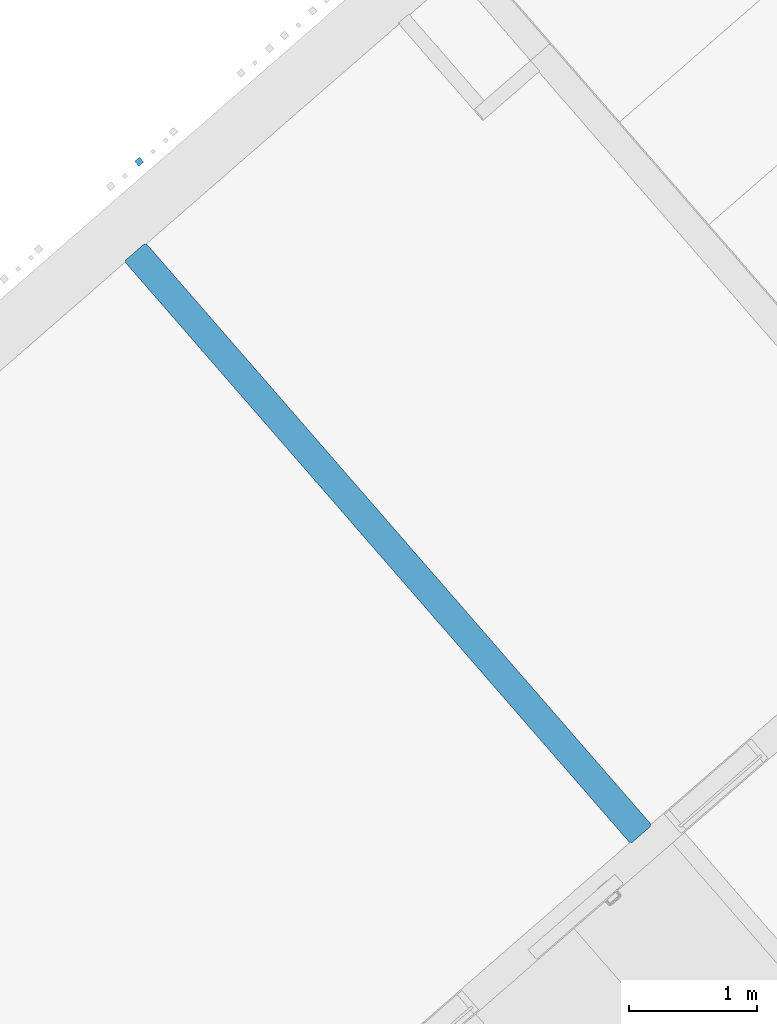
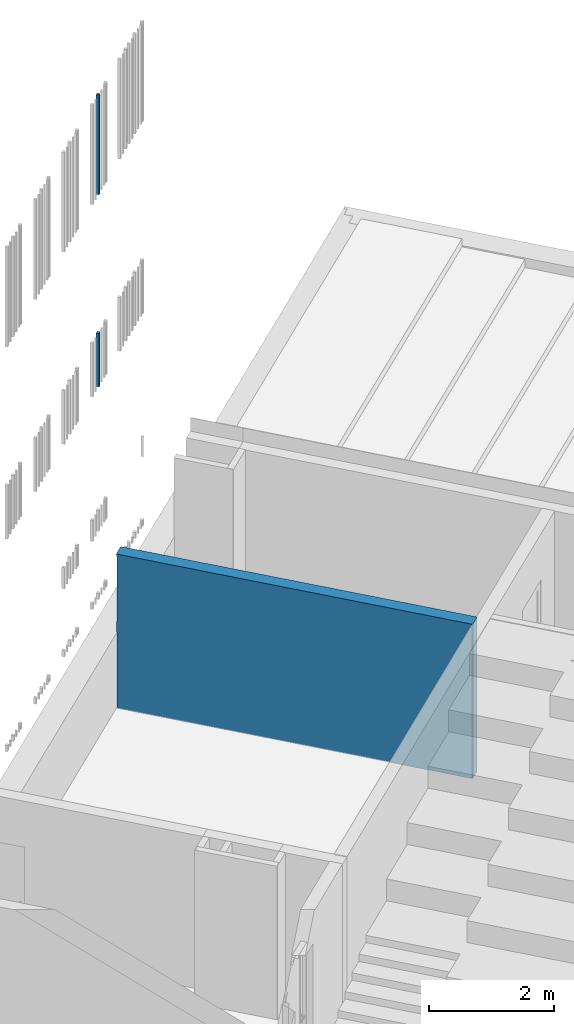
# One storey, part 79 of 124: 3 walls.
"""IFC2X3 building model written with IfcOpenShell, lengths in millimetres."""

import ifcopenshell
import ifcopenshell.guid

model = None  # the IFC model being written
_history = None  # IfcOwnerHistory: only IFC2X3 demands one
_inside = {}  # id of a spatial element -> (the spatial element, [elements in it])
_under = {}  # id of a project, library or spatial element -> (it, [spatial elements below it])
_declared = {}  # id of a project -> (the project, [libraries it declares])
_typed = {}  # id of a type object -> (the type object, [elements of that type])
_made_of = {}  # id of a material, layer set ... -> (it, [elements and type objects made of it])


def new_model(schema):
    """Start an empty IFC model of exactly this schema.

    Asked for "IFC4X3", IfcOpenShell would pick the latest addendum, in which some entities
    have other attributes; the version numbers below select the first issue.
    IFC2X3 requires an IfcOwnerHistory on every rooted entity: one is made here for all.
    """
    global model, _history
    if schema == "IFC4X3":
        model = ifcopenshell.file(schema_version=(4, 3, 0, 0))
    else:
        model = ifcopenshell.file(schema=schema)
    _inside.clear()
    _under.clear()
    _declared.clear()
    _typed.clear()
    _made_of.clear()
    _history = None
    if model.schema == "IFC2X3":
        org = make("IfcOrganization", Name="unknown")
        user = make(
            "IfcPersonAndOrganization",
            ThePerson=make("IfcPerson", FamilyName="unknown"),
            TheOrganization=org,
        )
        app = make(
            "IfcApplication",
            ApplicationDeveloper=org,
            Version="unknown",
            ApplicationFullName="unknown",
            ApplicationIdentifier="unknown",
        )
        _history = make(
            "IfcOwnerHistory",
            OwningUser=user,
            OwningApplication=app,
            ChangeAction="ADDED",
            CreationDate=0,
        )
    return model


def make(cls, **values):
    """One entity of the class cls with the attributes given. An attribute that is None is left unset."""
    return model.create_entity(
        cls, **{name: value for name, value in values.items() if value is not None}
    )


def entity(cls, *values):
    """Any entity or typed value of the class cls, its attributes in the order of the schema. None: left unset."""
    e = model.create_entity(cls)
    for i, value in enumerate(values):
        if value is not None:
            e[i] = value
    return e


def rooted(cls, **values):
    """An entity with a GlobalId (a new one), such as an element, a storey or a relation."""
    return make(cls, GlobalId=ifcopenshell.guid.new(), OwnerHistory=_history, **values)


def si_unit(unit_type, name, prefix=None):
    """IfcSIUnit, for example si_unit("LENGTHUNIT", "METRE", prefix="MILLI")."""
    return make("IfcSIUnit", UnitType=unit_type, Prefix=prefix, Name=name)


def converted_unit(unit_type, name, factor, base, dimensions=None, offset=None):
    """IfcConversionBasedUnit, such as the inch: factor (a typed value) times the base unit."""
    return make(
        "IfcConversionBasedUnit"
        if offset is None
        else "IfcConversionBasedUnitWithOffset",
        ConversionOffset=offset,
        Dimensions=None
        if dimensions is None
        else entity("IfcDimensionalExponents", *dimensions),
        UnitType=unit_type,
        Name=name,
        ConversionFactor=make(
            "IfcMeasureWithUnit", ValueComponent=factor, UnitComponent=base
        ),
    )


def derived_unit(unit_type, elements):
    """IfcDerivedUnit: a product of units, each with its exponent."""
    return make(
        "IfcDerivedUnit",
        Elements=[
            make("IfcDerivedUnitElement", Unit=unit, Exponent=power)
            for unit, power in elements
        ],
        UnitType=unit_type,
    )


def money_unit(currency):
    """IfcMonetaryUnit."""
    return make("IfcMonetaryUnit", Currency=currency)


def assignment(units):
    """IfcUnitAssignment: the units of a project."""
    return None if units is None else make("IfcUnitAssignment", Units=units)


def point(xyz):
    """IfcCartesianPoint."""
    return None if xyz is None else make("IfcCartesianPoint", Coordinates=xyz)


def direction(xyz):
    """IfcDirection."""
    return None if xyz is None else make("IfcDirection", DirectionRatios=xyz)


def frame(location, z_axis=None, x_axis=None):
    """IfcAxis2Placement3D, a coordinate frame: its origin and axes. An axis left out is left unset."""
    return make(
        "IfcAxis2Placement3D",
        Location=point(location),
        Axis=direction(z_axis),
        RefDirection=direction(x_axis),
    )


def origin_with_axes():
    """The frame at (0, 0, 0) with the z axis (0, 0, 1) and the x axis (1, 0, 0) written out."""
    return frame((0.0, 0.0, 0.0), z_axis=(0.0, 0.0, 1.0), x_axis=(1.0, 0.0, 0.0))


def place(relative_to, where):
    """IfcLocalPlacement: puts the frame where relative to a parent placement (None: the world)."""
    return make(
        "IfcLocalPlacement", PlacementRelTo=relative_to, RelativePlacement=where
    )


def context(
    kind, dimensions, precision=None, world=None, true_north=None, identifier=None
):
    """IfcGeometricRepresentationContext, for example the 3D "Model" context."""
    return make(
        "IfcGeometricRepresentationContext",
        ContextIdentifier=identifier,
        ContextType=kind,
        CoordinateSpaceDimension=dimensions,
        Precision=precision,
        WorldCoordinateSystem=world,
        TrueNorth=true_north,
    )


def subcontext(parent, identifier, kind, view, scale=None):
    """IfcGeometricRepresentationSubContext, for example "Body" below "Model"."""
    return make(
        "IfcGeometricRepresentationSubContext",
        ContextIdentifier=identifier,
        ContextType=kind,
        ParentContext=parent,
        TargetScale=scale,
        TargetView=view,
    )


def project(units=None, contexts=None):
    """IfcProject with its units and contexts."""
    return rooted(
        "IfcProject",
        Name="project",
        RepresentationContexts=contexts,
        UnitsInContext=assignment(units),
    )


def spatial(cls, under=None, at=None, **own):
    """A site, building, storey or space (cls), placed at a placement, below another one or the project."""
    s = rooted(cls, ObjectPlacement=at, **own)
    if under is not None:
        _under.setdefault(under.id(), (under, []))[1].append(s)
    return s


def faces_of(points, faces, orient=None, outer=None):
    """IfcFace entities. A face is a list of loops; a loop is a list of indices into points, from 0.

    orient and outer hold one flag for each loop. By default every Orientation is true, the
    first loop of a face is its IfcFaceOuterBound and the others are IfcFaceBound.
    """
    made = []
    for i, loops in enumerate(faces):
        bounds = []
        for j, loop in enumerate(loops):
            is_outer = j == 0 if outer is None else outer[i][j]
            bounds.append(
                make(
                    "IfcFaceOuterBound" if is_outer else "IfcFaceBound",
                    Bound=make("IfcPolyLoop", Polygon=[points[k] for k in loop]),
                    Orientation=True if orient is None else orient[i][j],
                )
            )
        made.append(make("IfcFace", Bounds=bounds))
    return made


def faceted_brep(points, faces, orient=None, outer=None, voids=None):
    """IfcFacetedBrep: a solid bounded by flat faces; with voids (closed shells), ...WithVoids."""
    shared = [point(p) for p in points]
    hull = make("IfcClosedShell", CfsFaces=faces_of(shared, faces, orient, outer))
    if voids is None:
        return make("IfcFacetedBrep", Outer=hull)
    return make(
        "IfcFacetedBrepWithVoids",
        Outer=hull,
        Voids=[
            make(cls, CfsFaces=faces_of(shared, fs, o, b)) for cls, fs, o, b in voids
        ],
    )


def shape(context_of_items, identifier, shape_type, items):
    """IfcShapeRepresentation: the items that make up one representation, for example the "Body"."""
    return make(
        "IfcShapeRepresentation",
        ContextOfItems=context_of_items,
        RepresentationIdentifier=identifier,
        RepresentationType=shape_type,
        Items=items,
    )


def material(Name=None, Category=None):
    """IfcMaterial."""
    return make("IfcMaterial", Name=Name, Category=Category)


def material_list(materials):
    """IfcMaterialList."""
    return make("IfcMaterialList", Materials=materials)


def made_of(thing, what):
    """Note that an element or type object is made of a material, layer set ...; save() writes the relation."""
    if what is not None:
        _made_of.setdefault(what.id(), (what, []))[1].append(thing)
    return thing


def type_object(cls, material=None, **own):
    """A type object (cls), such as IfcWallType, which elements share."""
    return made_of(rooted(cls, **own), material)


def element(
    cls,
    number,
    at=None,
    inside=None,
    cuts=None,
    type_object=None,
    material=None,
    context=None,
    identifier="Body",
    shape_type=None,
    held_by="IfcProductDefinitionShape",
    body=None,
    shapes=None,
    **own,
):
    """One element of the class cls, such as IfcWall. Its Tag is "e" and its number.

    at: its placement. inside: the storey or other place that contains it. cuts: it is an
    opening in that element (IfcRelVoidsElement). A single representation is given by context,
    identifier, shape_type and body (its items); several are given by shapes. held_by: the class
    of the entity that holds the representations. save() writes the other relations.
    """
    e = rooted(cls, Tag="e%d" % number, ObjectPlacement=at, **own)
    if body is not None:
        shapes = [shape(context, identifier, shape_type, body)]
    if shapes is not None:
        e.Representation = make(held_by, Representations=shapes)
    if inside is not None:
        _inside.setdefault(inside.id(), (inside, []))[1].append(e)
    if cuts is not None:
        rooted(
            "IfcRelVoidsElement", RelatingBuildingElement=cuts, RelatedOpeningElement=e
        )
    if type_object is not None:
        _typed.setdefault(type_object.id(), (type_object, []))[1].append(e)
    return made_of(e, material)


def aggregate(whole, parts):
    """IfcRelAggregates: a whole, such as a stair, and the parts it consists of."""
    return rooted("IfcRelAggregates", RelatingObject=whole, RelatedObjects=parts)


def save(model, path):
    """Write the relations noted so far, then the file.

    IfcRelAggregates (storeys below a building ...), IfcRelContainedInSpatialStructure (elements
    in a storey), IfcRelDefinesByType, IfcRelAssociatesMaterial and IfcRelDeclares: one each for
    every whole, place, type object, material and project.
    """
    for whole, parts in _under.values():
        aggregate(whole, parts)
    for where, things in _inside.values():
        rooted(
            "IfcRelContainedInSpatialStructure",
            RelatedElements=things,
            RelatingStructure=where,
        )
    for kind, things in _typed.values():
        rooted("IfcRelDefinesByType", RelatedObjects=things, RelatingType=kind)
    for what, things in _made_of.values():
        rooted("IfcRelAssociatesMaterial", RelatedObjects=things, RelatingMaterial=what)
    for by, libraries in _declared.values():
        rooted("IfcRelDeclares", RelatingContext=by, RelatedDefinitions=libraries)
    model.write(path)


model = new_model("IFC2X3")

# Units and contexts
model_context = context("Model", 3, precision=1e-05, world=origin_with_axes(), true_north=direction((0.0, 1.0)))
body_context = subcontext(model_context, "Body", "Model", "MODEL_VIEW")
ifc_project = project(units=[si_unit("LENGTHUNIT", "METRE", prefix="MILLI"), si_unit("AREAUNIT", "SQUARE_METRE"), si_unit("VOLUMEUNIT", "CUBIC_METRE"), converted_unit("PLANEANGLEUNIT", "DEGREE", entity("IfcPlaneAngleMeasure", 0.0174532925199), si_unit("PLANEANGLEUNIT", "RADIAN"), dimensions=[0, 0, 0, 0, 0, 0, 0]), si_unit("SOLIDANGLEUNIT", "STERADIAN"), money_unit("EUR"), converted_unit("TIMEUNIT", "Year", entity("IfcTimeMeasure", 31556926.0), si_unit("TIMEUNIT", "SECOND"), dimensions=[0, 0, 1, 0, 0, 0, 0]), si_unit("MASSUNIT", "GRAM", prefix="KILO"), si_unit("THERMODYNAMICTEMPERATUREUNIT", "DEGREE_CELSIUS"), si_unit("LUMINOUSINTENSITYUNIT", "LUMEN"), si_unit("ENERGYUNIT", "JOULE", prefix="MEGA"), derived_unit("THERMALCONDUCTANCEUNIT", [(si_unit("POWERUNIT", "WATT"), 1), (si_unit("LENGTHUNIT", "METRE"), -1), (si_unit("THERMODYNAMICTEMPERATUREUNIT", "KELVIN"), -1)]), derived_unit("SPECIFICHEATCAPACITYUNIT", [(si_unit("ENERGYUNIT", "JOULE"), 1), (si_unit("MASSUNIT", "GRAM", prefix="KILO"), -1), (si_unit("THERMODYNAMICTEMPERATUREUNIT", "KELVIN"), -1)]), derived_unit("MASSDENSITYUNIT", [(si_unit("MASSUNIT", "GRAM", prefix="KILO"), 1), (si_unit("VOLUMEUNIT", "CUBIC_METRE"), -1)])], contexts=[model_context])

# Site, building, storey
site_placement = place(None, origin_with_axes())
site = spatial("IfcSite", under=ifc_project, at=site_placement, Name="Site", CompositionType="ELEMENT")
building_placement = place(site_placement, origin_with_axes())
building = spatial("IfcBuilding", under=site, at=building_placement, Name="Building", CompositionType="ELEMENT")
storey_placement = place(building_placement, frame((0.0, 0.0, -1615.0), z_axis=(0.0, 0.0, 1.0), x_axis=(1.0, 0.0, 0.0)))
storey = spatial("IfcBuildingStorey", under=building, at=storey_placement, Name="0  korrus", CompositionType="ELEMENT", Elevation=-1615.0)

# Walls
ifc_material_1 = material(Name="Krohv - Lubjakivi")
ifc_material_2 = material(Name="Müüriplokk - Konstuktsioon")
ifc_material_list = material_list([ifc_material_1, ifc_material_2, ifc_material_1])
wall_type_1 = type_object("IfcWallType", Name="SS-01", PredefinedType="NOTDEFINED")
wall_1_placement = place(storey_placement, frame((157796.85653, 106515.473661, -20.0), z_axis=(0.0, 0.0, 1.0), x_axis=(0.656059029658, -0.754709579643, 0.0)))
element("IfcWall", 1, at=wall_1_placement, inside=storey, type_object=wall_type_1, material=ifc_material_list, Name="SS-01", context=body_context, shape_type="Brep", body=[
    faceted_brep([(1.16567377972e-06, -9.24842424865e-08, 2965.0), (1.16567377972e-06, 0.0, 3020.0), (6020.00000138, 0.0, 3019.99999994), (6020.00000138, -4.96385155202e-07, 0.0), (0.0, -9.83487780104e-06, 0.0), (1.06069819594e-06, -9.83487780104e-06, 1485.0), (1.06069819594e-06, -2.52805421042e-06, 1635.0), (0.0636223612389, -9.24558207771e-08, 1635.0), (0.0636223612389, -9.24558207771e-08, 2965.0), (1.15771570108e-06, -9.99999999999, 3020.0), (1.15771570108e-06, -9.99999055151, 2965.0), (6020.00000138, -9.99999999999, 3019.99999994), (6020.00000138, -10.0000003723, 0.0), (0.0, -10.0000073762, 0.0), (1.05265485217e-06, -9.99999475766, 1635.0), (1.05266906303e-06, -10.0000073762, 1485.0), (0.0635997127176, -9.99999055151, 1635.0), (0.0635997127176, -9.99999055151, 2965.0)], [[[0, 1, 2, 3, 4, 5, 6, 7, 8]], [[9, 1, 0, 10]], [[1, 9, 11, 2]], [[3, 2, 11, 12]], [[12, 13, 4, 3]], [[14, 6, 5, 4, 13, 15]], [[7, 6, 14, 16]], [[8, 7, 16, 17]], [[10, 0, 8, 17]], [[9, 10, 17, 16, 14, 15, 13, 12, 11]]]),
    faceted_brep([(-10.0000013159, -9.99999055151, 2965.0), (-10.0000012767, -9.99999999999, 3020.0), (6030.00000138, -9.99999999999, 3019.99999995), (6030.00000138, -10.0000003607, 0.0), (0.0, -10.0000073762, 0.0), (0.0, -10.0000073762, 1485.0), (-9.99999894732, -10.0000073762, 1485.0), (-9.99999894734, -9.99999475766, 1635.0), (-9.93640028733, -9.99999055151, 1635.0), (-9.93640028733, -9.99999055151, 1685.00000054), (0.0, -9.99999055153, 1685.00000054), (0.0, -9.99999055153, 2965.0), (-10.0000014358, -210.0, 3020.0), (-10.0000014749, -209.999990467, 2965.0), (6030.00000136, -210.0, 3019.99999995), (6030.00000136, -210.00000012, 0.0), (0.0, -210.000002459, 0.0), (0.0, -210.000002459, 1485.0), (-9.99999910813, -210.000002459, 1485.0), (-9.9999991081, -209.999993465, 1635.0), (-9.93685325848, -209.999990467, 1635.0), (-9.93685325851, -209.999990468, 1685.00000054), (0.0, -209.999990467, 1685.00000054), (0.0, -209.999990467, 2965.0)], [[[0, 1, 2, 3, 4, 5, 6, 7, 8, 9, 10, 11]], [[12, 1, 0, 13]], [[1, 12, 14, 2]], [[3, 2, 14, 15]], [[15, 16, 4, 3]], [[17, 5, 4, 16]], [[18, 6, 5, 17]], [[19, 7, 6, 18]], [[8, 7, 19, 20]], [[21, 9, 8, 20]], [[9, 21, 22, 10]], [[23, 11, 10, 22]], [[13, 0, 11, 23]], [[12, 13, 23, 22, 21, 20, 19, 18, 17, 16, 15, 14]]]),
    faceted_brep([(9.98667815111e-07, -209.999990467, 2965.0), (9.98653604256e-07, -210.0, 3020.0), (6020.00000136, -210.0, 3019.99999994), (6020.00000136, -210.000000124, 0.0), (0.0, -210.000002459, 0.0), (8.9191587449e-07, -210.000002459, 1485.0), (8.91901663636e-07, -209.999993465, 1635.0), (0.0631467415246, -209.999990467, 1635.0), (0.0631467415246, -209.999990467, 2965.0), (9.90695525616e-07, -220.0, 3020.0), (9.90695525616e-07, -220.0, 2965.0), (6020.00000136, -220.0, 3019.99999994), (6020.00000136, -220.0, 0.0), (0.0, -220.0, 0.0), (8.83858319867e-07, -220.0, 1635.0), (8.83858319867e-07, -220.0, 1485.0), (0.0631240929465, -220.0, 1635.0), (0.0631240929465, -220.0, 2965.0)], [[[0, 1, 2, 3, 4, 5, 6, 7, 8]], [[9, 1, 0, 10]], [[1, 9, 11, 2]], [[3, 2, 11, 12]], [[12, 13, 4, 3]], [[14, 6, 5, 4, 13, 15]], [[7, 6, 14, 16]], [[8, 7, 16, 17]], [[10, 0, 8, 17]], [[9, 10, 17, 16, 14, 15, 13, 12, 11]]]),
])
ifc_material_3 = material(Name="Site specified")
wall_type_2 = type_object("IfcWallType", Name="Puitfassaadi ribistik", PredefinedType="NOTDEFINED")
wall_2_placement = place(storey_placement, frame((157740.442406, 107158.090391, 9530.0), z_axis=(0.0, 0.0, 1.0), x_axis=(0.754709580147, 0.656059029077, 0.0)))
element("IfcWall", 2, at=wall_2_placement, inside=storey, type_object=wall_type_2, material=ifc_material_3, Name="Site specified", context=body_context, shape_type="Brep", body=[
    faceted_brep([(25.0, 25.0, 1950.0), (25.0, 25.0, 0.0), (-25.0, 25.0, 0.0), (-25.0, 25.0, 1950.0), (25.0, -25.0, 1950.0), (25.0, -25.0, 0.0), (-25.0, -25.0, 0.0), (-25.0, -25.0, 1950.0)], [[[0, 1, 2, 3]], [[4, 5, 1, 0]], [[2, 1, 5, 6]], [[3, 2, 6, 7]], [[4, 0, 3, 7]], [[7, 6, 5, 4]]]),
])
wall_3_placement = place(storey_placement, frame((157740.442406, 107158.090391, 5771.0), z_axis=(0.0, 0.0, 1.0), x_axis=(0.754709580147, 0.656059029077, 0.0)))
element("IfcWall", 3, at=wall_3_placement, inside=storey, type_object=wall_type_2, material=ifc_material_3, Name="Site specified", context=body_context, shape_type="Brep", body=[
    faceted_brep([(25.0, 25.0, 1050.0), (25.0, 25.0, 0.0), (-25.0, 25.0, 0.0), (-25.0, 25.0, 1050.0), (25.0, -25.0, 1050.0), (25.0, -25.0, 0.0), (-25.0, -25.0, 0.0), (-25.0, -25.0, 1050.0)], [[[0, 1, 2, 3]], [[4, 5, 1, 0]], [[2, 1, 5, 6]], [[3, 2, 6, 7]], [[4, 0, 3, 7]], [[7, 6, 5, 4]]]),
])

save(model, "model.ifc")
